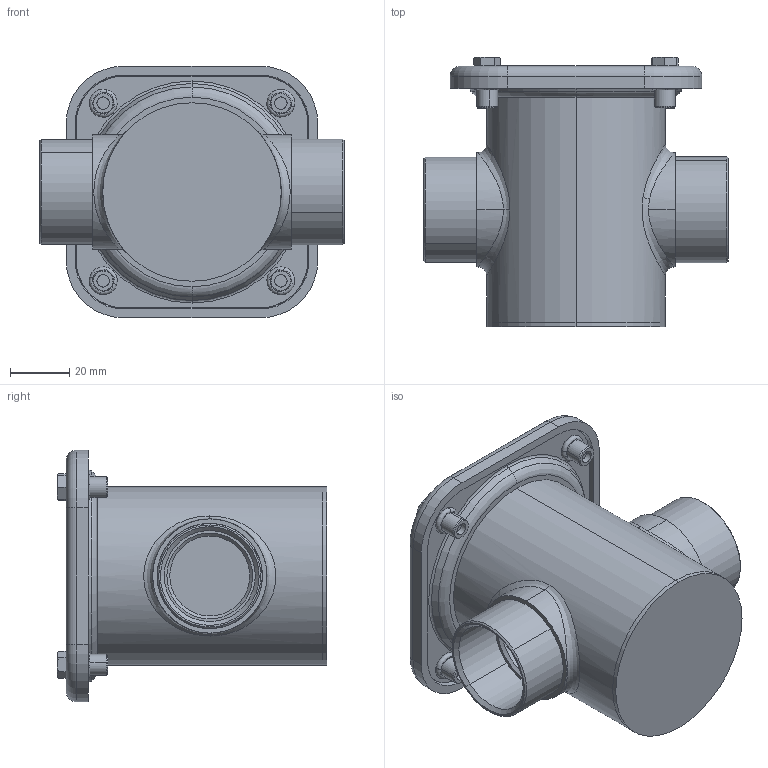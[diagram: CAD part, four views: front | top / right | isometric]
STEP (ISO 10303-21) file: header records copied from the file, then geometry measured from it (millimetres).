
FILE_DESCRIPTION (( 'STEP AP203' ), '1' );
FILE_NAME ('06I1820 G 1.STEP', '2024-01-17T08:36:12', ( '' ), ( '' ), 'SwSTEP 2.0', 'SolidWorks 2016', '' );
FILE_SCHEMA (( 'CONFIG_CONTROL_DESIGN' ));
Length unit declared in the file: millimetre
Products named in the file (18): 06D1911; 06D1910; VITE TE M5 x 8_TE M5 x 12; 06I1825_06G1643; 06L1801_06G1636; 06I1822_06G1632; 06I1827; 06E0613; 06B1727; 06L1802; 06I1823; RIVETTO M5 x sp. 2.5; 06L1803_06G1643; 06E0614-01_06E0614; 06I1820 G 1; 06I1821; ANELLO OR 6225_05G1647; 06I1824_06G1635
Assembly tree (23 placements, depth 4):
  06I1820 G 1
    06D1911
      06D1910
        06I1824_06G1635
        06B1727
        06I1825_06G1643
        06L1803_06G1643
        06E0614-01_06E0614
      RIVETTO M5 x sp. 2.5  x4
    VITE TE M5 x 8_TE M5 x 12  x4
    ANELLO OR 6225_05G1647
    06L1802
    06I1827
      06E0613
      06L1801_06G1636
      06I1821
        06I1822_06G1632
        06I1823
Bounding box: 103 x 91 x 85 mm (x, y, z)
Volume: 94928 mm3; surface area: 88554.8 mm2
Topology: 19 solids, 19 shells, 528 faces, 1230 edges, 758 vertices
Faces by surface type: plane 299, cylinder 113, cone 66, torus 42, bspline 8
Entity records: 13904 total; most frequent: CARTESIAN_POINT 4223, DIRECTION 1678, ORIENTED_EDGE 1524, EDGE_CURVE 762, AXIS2_PLACEMENT_3D 645, VERTEX_POINT 476, LINE 388, VECTOR 388
